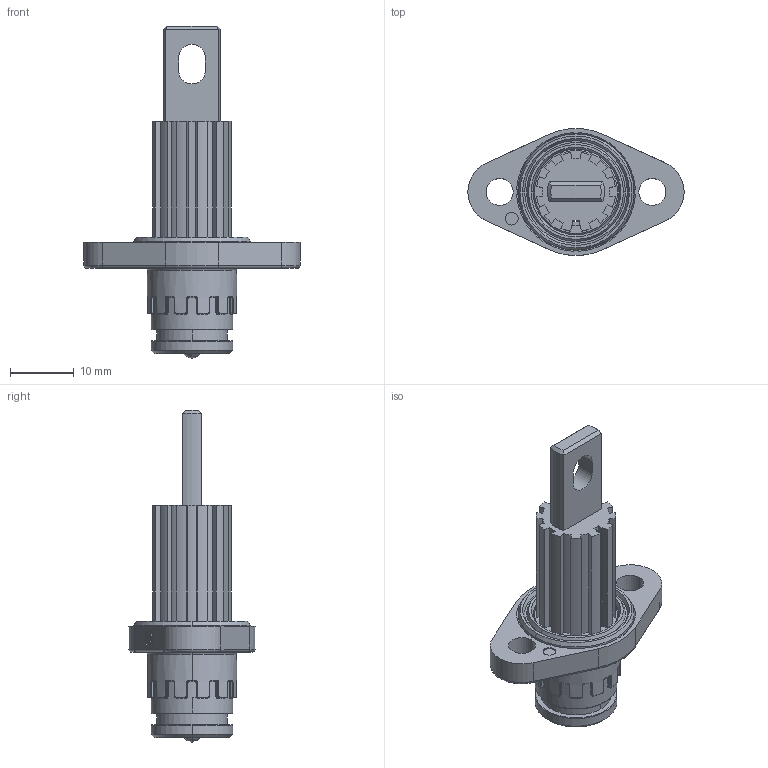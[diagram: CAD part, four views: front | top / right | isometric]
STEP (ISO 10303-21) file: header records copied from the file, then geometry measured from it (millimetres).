
FILE_DESCRIPTION((''),'2;1');
FILE_NAME('HRCT-S0136-N01','2023-11-03T15:13:52',('xny-lf'),(''),'CREO PARAMETRIC BY PTC INC, 2018050','CREO PARAMETRIC BY PTC INC, 2018050','');
FILE_SCHEMA(('CONFIG_CONTROL_DESIGN'));
Length unit declared in the file: millimetre
Products named in the file (1): HRCT-S0136-N01
Bounding box: 34 x 19.93 x 52.2 mm (x, y, z)
Volume: 4992.9 mm3; surface area: 4557.4 mm2
Topology: 1 solids, 6 shells, 602 faces, 1480 edges, 910 vertices
Faces by surface type: cylinder 211, plane 189, bspline 100, torus 60, cone 40, extrusion 2
Entity records: 26341 total; most frequent: CARTESIAN_POINT 12467, ORIENTED_EDGE 2960, DIRECTION 2846, EDGE_CURVE 1480, AXIS2_PLACEMENT_3D 1090, VERTEX_POINT 910, VECTOR 666, LINE 664
